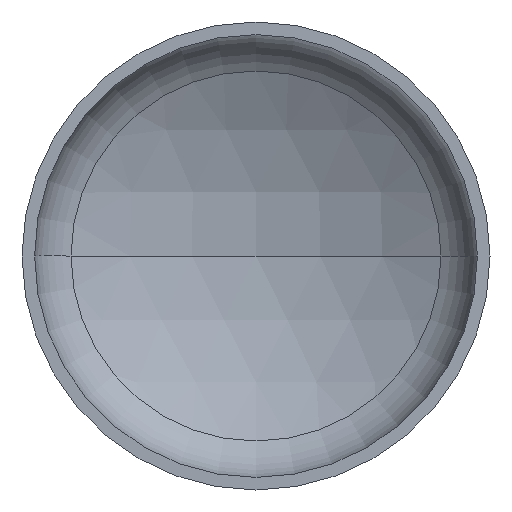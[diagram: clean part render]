
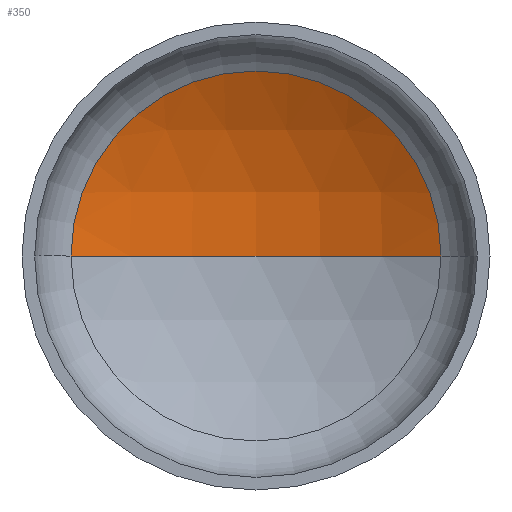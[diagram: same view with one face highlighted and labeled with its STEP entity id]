
A CAD part, front view. The second image highlights one B-rep face of the part: STEP entity #350.
In plain terms, the highlighted spherical face has radius 2080 mm.
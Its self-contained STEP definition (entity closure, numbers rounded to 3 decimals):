
#7 = AXIS2_PLACEMENT_3D ( 'NONE', #145, #156, #119 ) ;
#8 = CARTESIAN_POINT ( 'NONE',  ( 0., -1340.651, 0. ) ) ;
#32 = EDGE_LOOP ( 'NONE', ( #343, #124, #35 ) ) ;
#35 = ORIENTED_EDGE ( 'NONE', *, *, #101, .T. ) ;
#36 = VERTEX_POINT ( 'NONE', #289 ) ;
#38 = AXIS2_PLACEMENT_3D ( 'NONE', #8, #347, #404 ) ;
#40 = AXIS2_PLACEMENT_3D ( 'NONE', #201, #204, #205 ) ;
#101 = EDGE_CURVE ( 'NONE', #104, #36, #375, .T. ) ;
#104 = VERTEX_POINT ( 'NONE', #315 ) ;
#106 = EDGE_CURVE ( 'NONE', #137, #104, #321, .T. ) ;
#119 = DIRECTION ( 'NONE',  ( 1., 0., 0. ) ) ;
#124 = ORIENTED_EDGE ( 'NONE', *, *, #106, .T. ) ;
#137 = VERTEX_POINT ( 'NONE', #265 ) ;
#145 = CARTESIAN_POINT ( 'NONE',  ( 0., -1340.651, 0. ) ) ;
#156 = DIRECTION ( 'NONE',  ( 0., 0., 1. ) ) ;
#160 = DIRECTION ( 'NONE',  ( -1., 0., 0. ) ) ;
#201 = CARTESIAN_POINT ( 'NONE',  ( 0., 467.774, 0. ) ) ;
#204 = DIRECTION ( 'NONE',  ( 0., -1., 0. ) ) ;
#205 = DIRECTION ( 'NONE',  ( 1., 0., 0. ) ) ;
#230 = SPHERICAL_SURFACE ( 'NONE', #318, 2080. ) ;
#240 = DIRECTION ( 'NONE',  ( 0., 0., -1. ) ) ;
#265 = CARTESIAN_POINT ( 'NONE',  ( 0., 739.349, 0. ) ) ;
#283 = FACE_OUTER_BOUND ( 'NONE', #32, .T. ) ;
#289 = CARTESIAN_POINT ( 'NONE',  ( -1027.619, 467.774, 0. ) ) ;
#315 = CARTESIAN_POINT ( 'NONE',  ( 1027.619, 467.774, 0. ) ) ;
#318 = AXIS2_PLACEMENT_3D ( 'NONE', #388, #240, #160 ) ;
#321 = CIRCLE ( 'NONE', #38, 2080. ) ;
#343 = ORIENTED_EDGE ( 'NONE', *, *, #348, .F. ) ;
#347 = DIRECTION ( 'NONE',  ( 0., 0., -1. ) ) ;
#348 = EDGE_CURVE ( 'NONE', #137, #36, #399, .T. ) ;
#350 = ADVANCED_FACE ( 'NONE', ( #283 ), #230, .F. ) ;
#375 = CIRCLE ( 'NONE', #40, 1027.619 ) ;
#388 = CARTESIAN_POINT ( 'NONE',  ( 0., -1340.651, 0. ) ) ;
#399 = CIRCLE ( 'NONE', #7, 2080. ) ;
#404 = DIRECTION ( 'NONE',  ( -1., 0., 0. ) ) ;
